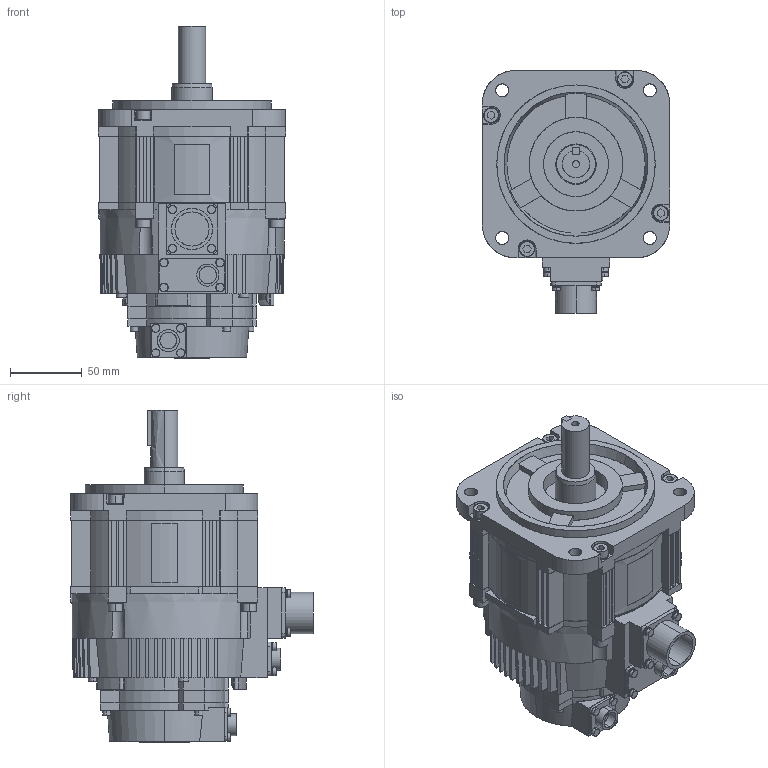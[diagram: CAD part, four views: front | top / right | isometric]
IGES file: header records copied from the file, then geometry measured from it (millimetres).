
Start section: SolidWorks IGES file using analytic representation for surfaces
Global section: file name: C:\YASKAWA\sgmgv_09__a6c.IGS; native system: SolidWorks 2006 by SolidWorks Corporation; preprocessor: SolidWorks 2006 by SolidWorks Corporation; author: yamanouchi; date: 090206.151447; units: millimetre
Bounding box: 130 x 168.49 x 230.6 mm (x, y, z)
Surface area: 156617.4 mm2 (no closed solid volume)
Topology: 0 solids, 0 shells, 942 faces, 11358 edges, 11355 vertices
Faces by surface type: bspline 589, revolution 353
